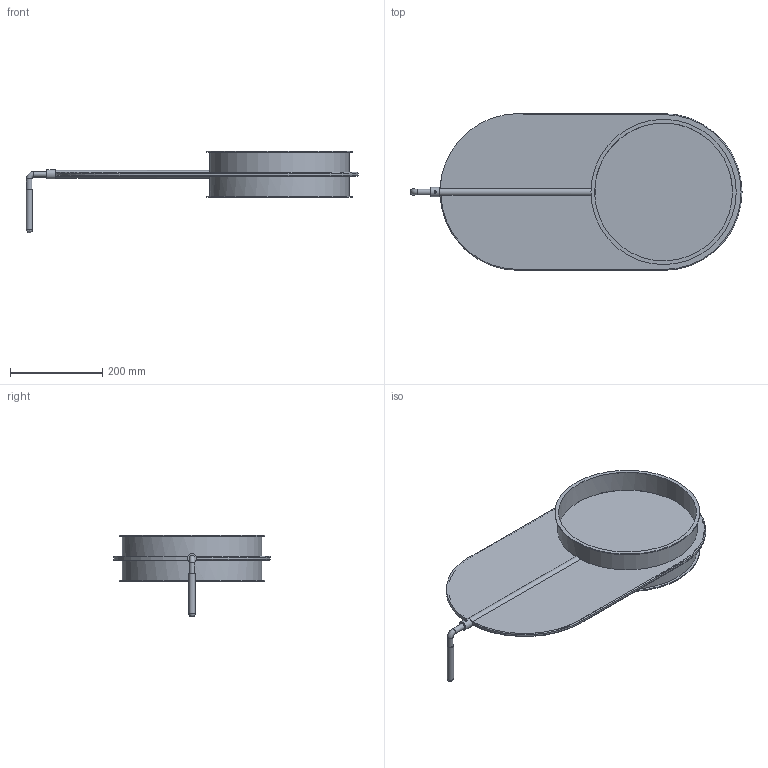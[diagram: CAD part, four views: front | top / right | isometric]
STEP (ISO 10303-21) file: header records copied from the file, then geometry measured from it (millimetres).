
FILE_DESCRIPTION((''),'2;1');
FILE_NAME('U:\Wolfgang\Marcel-3D\fertig\Kapitel 9\3021077.stp','2011-10-11T13:05:38',('iwienholt'),(''),'Autodesk Inventor 2010','Autodesk Inventor 2010','');
FILE_SCHEMA(('AUTOMOTIVE_DESIGN { 1 0 10303 214 1 1 1 1 }'));
Length unit declared in the file: millimetre
Products named in the file (3): 3021077; 3021077-1; Hebel-Ronde DN300
Assembly tree (2 placements, depth 2):
  3021077
    3021077-1
    Hebel-Ronde DN300
Bounding box: 719.8 x 340 x 176.95 mm (x, y, z)
Volume: 941231.4 mm3; surface area: 916922.9 mm2
Topology: 2 solids, 2 shells, 49 faces, 125 edges, 80 vertices
Faces by surface type: cylinder 24, plane 19, torus 5, sphere 1
Full cylindrical faces by diameter (mm): 4.917 x1, 12 x2, 12.5 x1, 14 x1, 16.5 x1, 20 x1, 299 x2, 303 x2, 315 x2
Entity records: 1636 total; most frequent: CARTESIAN_POINT 479, DIRECTION 234, ORIENTED_EDGE 196, AXIS2_PLACEMENT_3D 100, EDGE_CURVE 98, EDGE_LOOP 72, VERTEX_POINT 70, FACE_OUTER_BOUND 49
